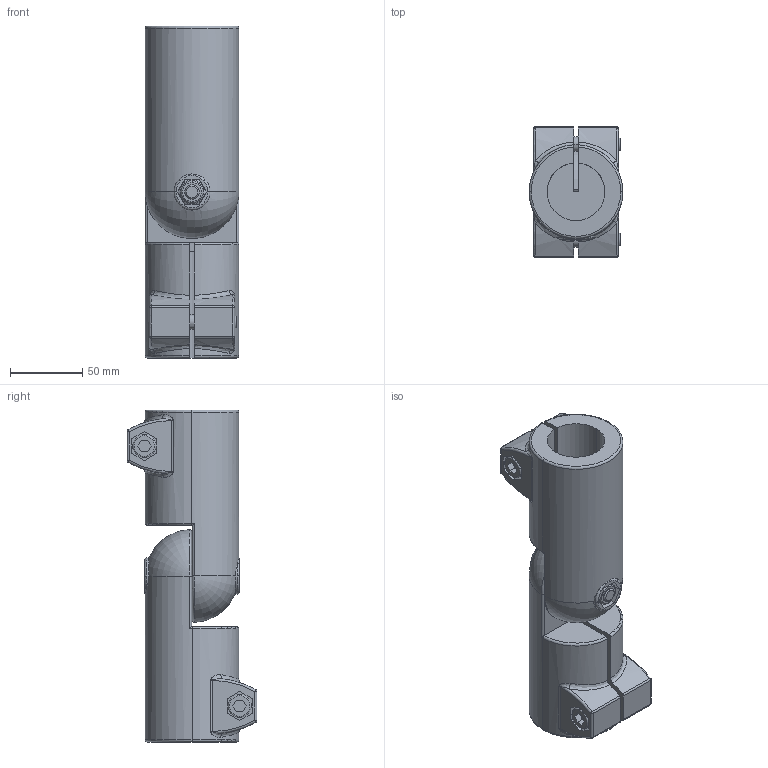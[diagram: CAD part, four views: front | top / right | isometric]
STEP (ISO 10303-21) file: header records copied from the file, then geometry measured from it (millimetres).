
FILE_DESCRIPTION (( 'STEP AP214' ), '1' );
FILE_NAME ('286-B40-B50-S-2-BL.step', '2021-12-02T12:15:26', ( '' ), ( '' ), 'SwSTEP 2.0', 'SolidWorks 2019', '' );
FILE_SCHEMA (( 'AUTOMOTIVE_DESIGN' ));
Length unit declared in the file: millimetre
Products named in the file (3): 286-B40-B50-S-2-BL; WB276^WB286_B40-IV-2-BL; WB276_1^WB286_B50-MZ-2-BL
Assembly tree (2 placements, depth 2):
  286-B40-B50-S-2-BL
    WB276^WB286_B40-IV-2-BL
    WB276_1^WB286_B50-MZ-2-BL
Bounding box: 65 x 90 x 230 mm (x, y, z)
Volume: 520480.1 mm3; surface area: 110216.9 mm2
Topology: 2 solids, 2 shells, 401 faces, 968 edges, 590 vertices
Faces by surface type: plane 195, cylinder 108, torus 46, cone 24, bspline 20, sphere 8
Entity records: 15770 total; most frequent: CARTESIAN_POINT 5474, ORIENTED_EDGE 1920, DIRECTION 1880, EDGE_CURVE 960, AXIS2_PLACEMENT_3D 738, VERTEX_POINT 590, EDGE_LOOP 434, VECTOR 404
